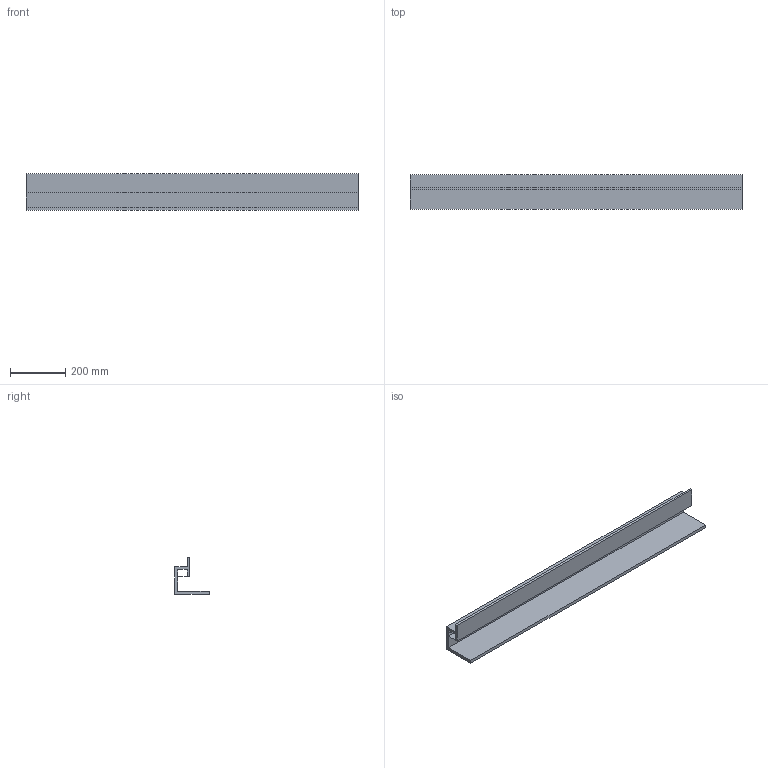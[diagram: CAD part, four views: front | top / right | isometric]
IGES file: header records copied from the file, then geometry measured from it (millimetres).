
Start section: SolidWorks IGES file using analytic representation for surfaces
Global section: file name: C:\Users\Stagiaire\Desktop\Rendu 3D\Micro BLADE angle\775_Micro_BLADE_angle.IGS; native system: SolidWorks 2014; preprocessor: SolidWorks 2014; author: Stagiaire; date: 140915.112009; units: millimetre
Bounding box: 1200 x 124 x 133 mm (x, y, z)
Surface area: 943878.1 mm2 (no closed solid volume)
Topology: 0 solids, 0 shells, 29 faces, 150 edges, 150 vertices
Faces by surface type: bspline 29
